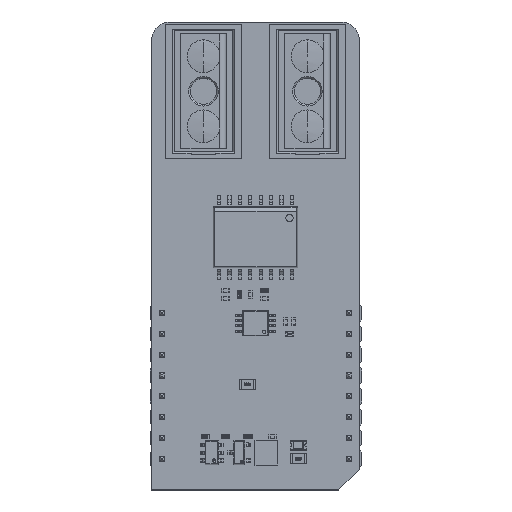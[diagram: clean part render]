
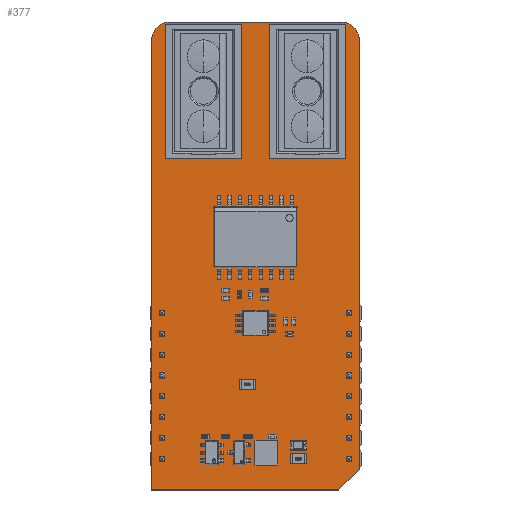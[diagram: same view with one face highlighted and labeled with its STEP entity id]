
A CAD part, top view. The second image highlights one B-rep face of the part: STEP entity #377.
In plain terms, the highlighted planar face has unit normal (0, 0, 1).
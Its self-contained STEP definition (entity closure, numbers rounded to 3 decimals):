
#148 = VERTEX_POINT('',#149);
#149 = CARTESIAN_POINT('',(-1.27,-3.81,1.59));
#155 = EDGE_CURVE('',#148,#156,#158,.T.);
#156 = VERTEX_POINT('',#157);
#157 = CARTESIAN_POINT('',(-1.27,51.054,1.59));
#158 = LINE('',#159,#160);
#159 = CARTESIAN_POINT('',(-1.27,-3.81,1.59));
#160 = VECTOR('',#161,1.);
#161 = DIRECTION('',(0.,1.,0.));
#186 = EDGE_CURVE('',#156,#187,#189,.T.);
#187 = VERTEX_POINT('',#188);
#188 = CARTESIAN_POINT('',(1.016,53.34,1.59));
#189 = CIRCLE('',#190,2.288);
#190 = AXIS2_PLACEMENT_3D('',#191,#192,#193);
#191 = CARTESIAN_POINT('',(1.018,51.052,1.59));
#192 = DIRECTION('',(0.,0.,-1.));
#193 = DIRECTION('',(-1.,0.001,0.));
#219 = EDGE_CURVE('',#187,#220,#222,.T.);
#220 = VERTEX_POINT('',#221);
#221 = CARTESIAN_POINT('',(21.844,53.34,1.59));
#222 = LINE('',#223,#224);
#223 = CARTESIAN_POINT('',(1.016,53.34,1.59));
#224 = VECTOR('',#225,1.);
#225 = DIRECTION('',(1.,0.,0.));
#250 = EDGE_CURVE('',#220,#251,#253,.T.);
#251 = VERTEX_POINT('',#252);
#252 = CARTESIAN_POINT('',(24.13,51.054,1.59));
#253 = CIRCLE('',#254,2.288);
#254 = AXIS2_PLACEMENT_3D('',#255,#256,#257);
#255 = CARTESIAN_POINT('',(21.842,51.052,1.59));
#256 = DIRECTION('',(0.,0.,-1.));
#257 = DIRECTION('',(0.001,1.,0.));
#283 = EDGE_CURVE('',#251,#284,#286,.T.);
#284 = VERTEX_POINT('',#285);
#285 = CARTESIAN_POINT('',(24.13,-1.27,1.59));
#286 = LINE('',#287,#288);
#287 = CARTESIAN_POINT('',(24.13,51.054,1.59));
#288 = VECTOR('',#289,1.);
#289 = DIRECTION('',(0.,-1.,0.));
#314 = EDGE_CURVE('',#284,#315,#317,.T.);
#315 = VERTEX_POINT('',#316);
#316 = CARTESIAN_POINT('',(21.59,-3.81,1.59));
#317 = LINE('',#318,#319);
#318 = CARTESIAN_POINT('',(24.13,-1.27,1.59));
#319 = VECTOR('',#320,1.);
#320 = DIRECTION('',(-0.707,-0.707,0.));
#345 = EDGE_CURVE('',#315,#148,#346,.T.);
#346 = LINE('',#347,#348);
#347 = CARTESIAN_POINT('',(21.59,-3.81,1.59));
#348 = VECTOR('',#349,1.);
#349 = DIRECTION('',(-1.,0.,0.));
#377 = ADVANCED_FACE('',(#378),#387,.F.);
#378 = FACE_BOUND('',#379,.F.);
#379 = EDGE_LOOP('',(#380,#381,#382,#383,#384,#385,#386));
#380 = ORIENTED_EDGE('',*,*,#155,.T.);
#381 = ORIENTED_EDGE('',*,*,#186,.T.);
#382 = ORIENTED_EDGE('',*,*,#219,.T.);
#383 = ORIENTED_EDGE('',*,*,#250,.T.);
#384 = ORIENTED_EDGE('',*,*,#283,.T.);
#385 = ORIENTED_EDGE('',*,*,#314,.T.);
#386 = ORIENTED_EDGE('',*,*,#345,.T.);
#387 = PLANE('',#388);
#388 = AXIS2_PLACEMENT_3D('',#389,#390,#391);
#389 = CARTESIAN_POINT('',(11.305,24.669,1.59));
#390 = DIRECTION('',(-0.,-0.,-1.));
#391 = DIRECTION('',(-1.,0.,0.));
